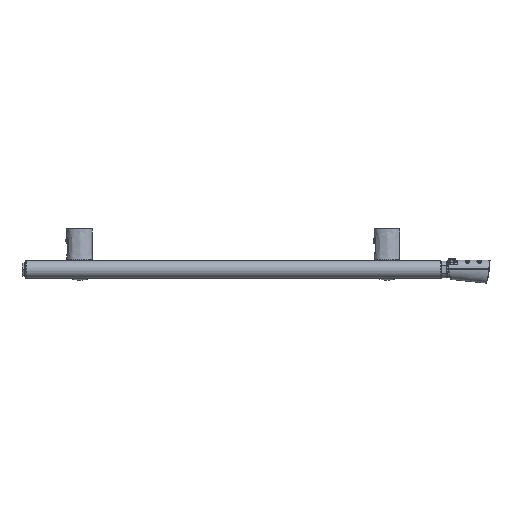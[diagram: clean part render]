
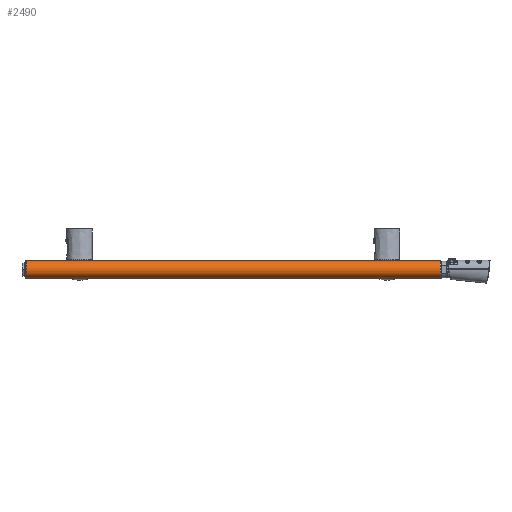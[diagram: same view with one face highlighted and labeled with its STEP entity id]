
A CAD part, left-side view. The second image highlights one B-rep face of the part: STEP entity #2490.
In plain terms, the highlighted cylindrical face has radius 15 mm (diameter 30 mm), a partial arc.
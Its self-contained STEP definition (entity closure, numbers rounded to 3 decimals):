
#936=DIRECTION('',(0.,1.,0.));
#937=VECTOR('',#936,698.4);
#938=CARTESIAN_POINT('',(-185.,-349.2,-15.));
#939=LINE('',#938,#937);
#1047=DIRECTION('',(0.,-1.,0.));
#1048=VECTOR('',#1047,698.4);
#1049=CARTESIAN_POINT('',(-185.,349.2,15.));
#1050=LINE('',#1049,#1048);
#1147=CARTESIAN_POINT('',(-185.,349.2,0.));
#1148=DIRECTION('',(0.,-1.,0.));
#1149=DIRECTION('',(0.,0.,1.));
#1150=AXIS2_PLACEMENT_3D('',#1147,#1148,#1149);
#1155=CARTESIAN_POINT('',(-185.,-349.2,0.));
#1156=DIRECTION('',(0.,1.,0.));
#1157=DIRECTION('',(0.,0.,-1.));
#1158=AXIS2_PLACEMENT_3D('',#1155,#1156,#1157);
#1688=CARTESIAN_POINT('',(-185.,349.2,15.));
#1690=VERTEX_POINT('',#1688);
#1695=CARTESIAN_POINT('',(-185.,349.2,-15.));
#1696=VERTEX_POINT('',#1695);
#1713=CARTESIAN_POINT('',(-185.,-349.2,15.));
#1715=VERTEX_POINT('',#1713);
#1717=CARTESIAN_POINT('',(-185.,-349.2,-15.));
#1718=VERTEX_POINT('',#1717);
#2478=CARTESIAN_POINT('',(-185.,1263.241,0.));
#2479=DIRECTION('',(0.,-1.,0.));
#2480=DIRECTION('',(0.,0.,1.));
#2481=AXIS2_PLACEMENT_3D('',#2478,#2479,#2480);
#2482=CYLINDRICAL_SURFACE('',#2481,15.);
#2484=ORIENTED_EDGE('',*,*,#2483,.F.);
#2485=ORIENTED_EDGE('',*,*,#2392,.T.);
#2486=ORIENTED_EDGE('',*,*,#2469,.F.);
#2487=ORIENTED_EDGE('',*,*,#2319,.T.);
#2488=EDGE_LOOP('',(#2484,#2485,#2486,#2487));
#2489=FACE_OUTER_BOUND('',#2488,.F.);
#1151=CIRCLE('',#1150,15.);
#1159=CIRCLE('',#1158,15.);
#2319=EDGE_CURVE('',#1718,#1696,#939,.T.);
#2392=EDGE_CURVE('',#1690,#1715,#1050,.T.);
#2469=EDGE_CURVE('',#1718,#1715,#1159,.T.);
#2483=EDGE_CURVE('',#1690,#1696,#1151,.T.);
#2490=ADVANCED_FACE('',(#2489),#2482,.T.);
